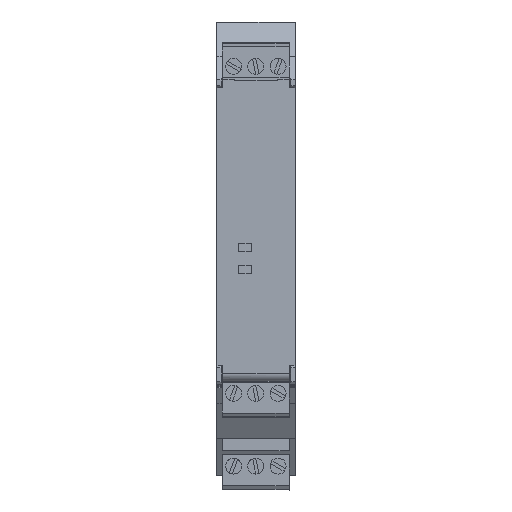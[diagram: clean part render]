
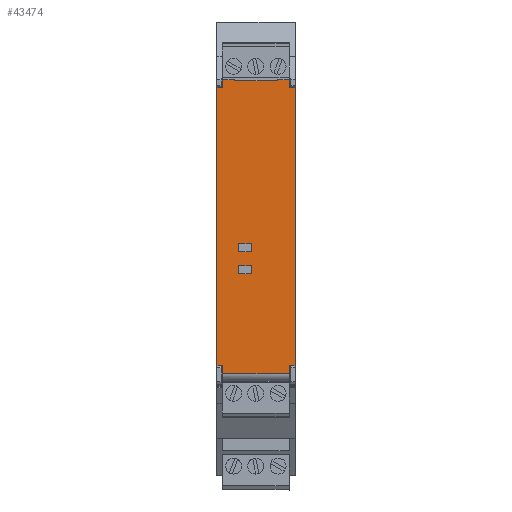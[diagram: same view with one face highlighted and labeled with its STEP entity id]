
A CAD part, top view. The second image highlights one B-rep face of the part: STEP entity #43474.
In plain terms, the highlighted planar face has unit normal (0, 0, 1).
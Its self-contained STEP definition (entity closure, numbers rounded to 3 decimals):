
#41841=CARTESIAN_POINT('',(16.325,-30.531,109.7));
#41842=VERTEX_POINT('',#41841);
#41849=CARTESIAN_POINT('',(16.325,-32.338,109.7));
#41850=VERTEX_POINT('',#41849);
#41851=CARTESIAN_POINT('',(16.325,-32.338,109.7));
#41852=DIRECTION('',(0.0,1.0,0.0));
#41853=VECTOR('',#41852,1.807);
#41854=LINE('',#41851,#41853);
#41855=EDGE_CURVE('',#41850,#41842,#41854,.T.);
#41881=CARTESIAN_POINT('',(16.335,33.579,109.7));
#41882=VERTEX_POINT('',#41881);
#41883=CARTESIAN_POINT('',(16.335,31.93,109.7));
#41884=VERTEX_POINT('',#41883);
#41885=CARTESIAN_POINT('',(16.335,33.579,109.7));
#41886=DIRECTION('',(0.0,-1.0,0.0));
#41887=VECTOR('',#41886,1.65);
#41888=LINE('',#41885,#41887);
#41889=EDGE_CURVE('',#41882,#41884,#41888,.T.);
#42458=CARTESIAN_POINT('',(1.375,31.93,109.7));
#42459=VERTEX_POINT('',#42458);
#42466=CARTESIAN_POINT('',(1.375,33.579,109.7));
#42467=VERTEX_POINT('',#42466);
#42468=CARTESIAN_POINT('',(1.375,33.579,109.7));
#42469=DIRECTION('',(0.0,-1.0,0.0));
#42470=VECTOR('',#42469,1.65);
#42471=LINE('',#42468,#42470);
#42472=EDGE_CURVE('',#42467,#42459,#42471,.T.);
#42614=CARTESIAN_POINT('',(13.685,33.579,109.7));
#42615=VERTEX_POINT('',#42614);
#42624=CARTESIAN_POINT('',(13.685,33.779,109.7));
#42625=VERTEX_POINT('',#42624);
#42626=CARTESIAN_POINT('',(13.685,33.579,109.7));
#42627=DIRECTION('',(0.0,1.0,0.0));
#42628=VECTOR('',#42627,0.2);
#42629=LINE('',#42626,#42628);
#42630=EDGE_CURVE('',#42615,#42625,#42629,.T.);
#42680=CARTESIAN_POINT('',(16.135,33.779,109.7));
#42681=VERTEX_POINT('',#42680);
#42688=CARTESIAN_POINT('',(16.135,33.579,109.7));
#42689=DIRECTION('',(0.0,0.0,-1.0));
#42690=DIRECTION('',(1.0,0.0,0.0));
#42691=AXIS2_PLACEMENT_3D('',#42688,#42689,#42690);
#42692=CIRCLE('',#42691,0.2);
#42693=EDGE_CURVE('',#42681,#41882,#42692,.T.);
#42706=CARTESIAN_POINT('',(4.025,33.579,109.7));
#42707=VERTEX_POINT('',#42706);
#42722=CARTESIAN_POINT('',(4.025,33.779,109.7));
#42723=VERTEX_POINT('',#42722);
#42730=CARTESIAN_POINT('',(4.025,33.779,109.7));
#42731=DIRECTION('',(0.0,-1.0,0.0));
#42732=VECTOR('',#42731,0.2);
#42733=LINE('',#42730,#42732);
#42734=EDGE_CURVE('',#42723,#42707,#42733,.T.);
#42744=CARTESIAN_POINT('',(1.575,33.779,109.7));
#42745=VERTEX_POINT('',#42744);
#42746=CARTESIAN_POINT('',(1.575,33.579,109.7));
#42747=DIRECTION('',(0.0,0.0,-1.0));
#42748=DIRECTION('',(1.0,0.0,0.0));
#42749=AXIS2_PLACEMENT_3D('',#42746,#42747,#42748);
#42750=CIRCLE('',#42749,0.2);
#42751=EDGE_CURVE('',#42467,#42745,#42750,.T.);
#43027=CARTESIAN_POINT('',(0.078,-30.531,109.7));
#43028=VERTEX_POINT('',#43027);
#43035=CARTESIAN_POINT('',(1.385,-30.531,109.7));
#43036=VERTEX_POINT('',#43035);
#43043=CARTESIAN_POINT('',(0.078,-30.531,109.7));
#43044=DIRECTION('',(1.0,0.0,0.0));
#43045=VECTOR('',#43044,1.307);
#43046=LINE('',#43043,#43045);
#43047=EDGE_CURVE('',#43028,#43036,#43046,.T.);
#43071=CARTESIAN_POINT('',(1.385,-32.338,109.7));
#43072=VERTEX_POINT('',#43071);
#43080=CARTESIAN_POINT('',(1.385,-30.531,109.7));
#43081=DIRECTION('',(0.0,-1.0,0.0));
#43082=VECTOR('',#43081,1.807);
#43083=LINE('',#43080,#43082);
#43084=EDGE_CURVE('',#43036,#43072,#43083,.T.);
#43131=CARTESIAN_POINT('',(1.385,-32.338,109.7));
#43132=DIRECTION('',(1.0,0.0,0.0));
#43133=VECTOR('',#43132,14.94);
#43134=LINE('',#43131,#43133);
#43135=EDGE_CURVE('',#43072,#41850,#43134,.T.);
#43155=CARTESIAN_POINT('',(17.632,-30.531,109.7));
#43156=VERTEX_POINT('',#43155);
#43163=CARTESIAN_POINT('',(16.325,-30.531,109.7));
#43164=DIRECTION('',(1.0,0.0,0.0));
#43165=VECTOR('',#43164,1.307);
#43166=LINE('',#43163,#43165);
#43167=EDGE_CURVE('',#41842,#43156,#43166,.T.);
#43177=CARTESIAN_POINT('',(16.135,33.779,109.7));
#43178=DIRECTION('',(-1.0,0.0,0.0));
#43179=VECTOR('',#43178,2.45);
#43180=LINE('',#43177,#43179);
#43181=EDGE_CURVE('',#42681,#42625,#43180,.T.);
#43200=CARTESIAN_POINT('',(4.025,33.779,109.7));
#43201=DIRECTION('',(-1.0,0.0,0.0));
#43202=VECTOR('',#43201,2.45);
#43203=LINE('',#43200,#43202);
#43204=EDGE_CURVE('',#42723,#42745,#43203,.T.);
#43221=CARTESIAN_POINT('',(7.775,-9.9,109.7));
#43222=VERTEX_POINT('',#43221);
#43230=CARTESIAN_POINT('',(4.975,-9.9,109.7));
#43231=VERTEX_POINT('',#43230);
#43238=CARTESIAN_POINT('',(7.775,-9.9,109.7));
#43239=DIRECTION('',(-1.0,0.0,0.0));
#43240=VECTOR('',#43239,2.8);
#43241=LINE('',#43238,#43240);
#43242=EDGE_CURVE('',#43222,#43231,#43241,.T.);
#43254=CARTESIAN_POINT('',(4.975,-8.1,109.7));
#43255=VERTEX_POINT('',#43254);
#43262=CARTESIAN_POINT('',(4.975,-9.9,109.7));
#43263=DIRECTION('',(0.0,1.0,0.0));
#43264=VECTOR('',#43263,1.8);
#43265=LINE('',#43262,#43264);
#43266=EDGE_CURVE('',#43231,#43255,#43265,.T.);
#43278=CARTESIAN_POINT('',(7.775,-8.1,109.7));
#43279=VERTEX_POINT('',#43278);
#43286=CARTESIAN_POINT('',(4.975,-8.1,109.7));
#43287=DIRECTION('',(1.0,0.0,0.0));
#43288=VECTOR('',#43287,2.8);
#43289=LINE('',#43286,#43288);
#43290=EDGE_CURVE('',#43255,#43279,#43289,.T.);
#43303=CARTESIAN_POINT('',(7.775,-8.1,109.7));
#43304=DIRECTION('',(0.0,-1.0,0.0));
#43305=VECTOR('',#43304,1.8);
#43306=LINE('',#43303,#43305);
#43307=EDGE_CURVE('',#43279,#43222,#43306,.T.);
#43317=CARTESIAN_POINT('',(4.975,-3.1,109.7));
#43318=VERTEX_POINT('',#43317);
#43326=CARTESIAN_POINT('',(7.775,-3.1,109.7));
#43327=VERTEX_POINT('',#43326);
#43334=CARTESIAN_POINT('',(4.975,-3.1,109.7));
#43335=DIRECTION('',(1.0,0.0,0.0));
#43336=VECTOR('',#43335,2.8);
#43337=LINE('',#43334,#43336);
#43338=EDGE_CURVE('',#43318,#43327,#43337,.T.);
#43350=CARTESIAN_POINT('',(7.775,-4.9,109.7));
#43351=VERTEX_POINT('',#43350);
#43358=CARTESIAN_POINT('',(7.775,-3.1,109.7));
#43359=DIRECTION('',(0.0,-1.0,0.0));
#43360=VECTOR('',#43359,1.8);
#43361=LINE('',#43358,#43360);
#43362=EDGE_CURVE('',#43327,#43351,#43361,.T.);
#43374=CARTESIAN_POINT('',(4.975,-4.9,109.7));
#43375=VERTEX_POINT('',#43374);
#43382=CARTESIAN_POINT('',(7.775,-4.9,109.7));
#43383=DIRECTION('',(-1.0,0.0,0.0));
#43384=VECTOR('',#43383,2.8);
#43385=LINE('',#43382,#43384);
#43386=EDGE_CURVE('',#43351,#43375,#43385,.T.);
#43399=CARTESIAN_POINT('',(4.975,-4.9,109.7));
#43400=DIRECTION('',(0.0,1.0,0.0));
#43401=VECTOR('',#43400,1.8);
#43402=LINE('',#43399,#43401);
#43403=EDGE_CURVE('',#43375,#43318,#43402,.T.);
#43408=CARTESIAN_POINT('',(6.135,8.43,109.7));
#43409=DIRECTION('',(0.0,0.0,1.0));
#43410=DIRECTION('',(1.0,0.0,0.0));
#43411=AXIS2_PLACEMENT_3D('',#43408,#43409,#43410);
#43412=PLANE('',#43411);
#43413=ORIENTED_EDGE('',*,*,#42630,.F.);
#43414=CARTESIAN_POINT('',(13.685,33.579,109.7));
#43415=DIRECTION('',(-1.0,0.0,0.0));
#43416=VECTOR('',#43415,9.66);
#43417=LINE('',#43414,#43416);
#43418=EDGE_CURVE('',#42615,#42707,#43417,.T.);
#43419=ORIENTED_EDGE('',*,*,#43418,.T.);
#43420=ORIENTED_EDGE('',*,*,#42734,.F.);
#43421=ORIENTED_EDGE('',*,*,#43204,.T.);
#43422=ORIENTED_EDGE('',*,*,#42751,.F.);
#43423=ORIENTED_EDGE('',*,*,#42472,.T.);
#43424=CARTESIAN_POINT('',(0.078,31.93,109.7));
#43425=VERTEX_POINT('',#43424);
#43426=CARTESIAN_POINT('',(1.375,31.93,109.7));
#43427=DIRECTION('',(-1.0,0.0,0.0));
#43428=VECTOR('',#43427,1.297);
#43429=LINE('',#43426,#43428);
#43430=EDGE_CURVE('',#42459,#43425,#43429,.T.);
#43431=ORIENTED_EDGE('',*,*,#43430,.T.);
#43432=CARTESIAN_POINT('',(0.078,-30.531,109.7));
#43433=DIRECTION('',(0.0,1.0,0.0));
#43434=VECTOR('',#43433,62.46);
#43435=LINE('',#43432,#43434);
#43436=EDGE_CURVE('',#43028,#43425,#43435,.T.);
#43437=ORIENTED_EDGE('',*,*,#43436,.F.);
#43438=ORIENTED_EDGE('',*,*,#43047,.T.);
#43439=ORIENTED_EDGE('',*,*,#43084,.T.);
#43440=ORIENTED_EDGE('',*,*,#43135,.T.);
#43441=ORIENTED_EDGE('',*,*,#41855,.T.);
#43442=ORIENTED_EDGE('',*,*,#43167,.T.);
#43443=CARTESIAN_POINT('',(17.632,31.93,109.7));
#43444=VERTEX_POINT('',#43443);
#43445=CARTESIAN_POINT('',(17.632,-30.531,109.7));
#43446=DIRECTION('',(0.0,1.0,0.0));
#43447=VECTOR('',#43446,62.46);
#43448=LINE('',#43445,#43447);
#43449=EDGE_CURVE('',#43156,#43444,#43448,.T.);
#43450=ORIENTED_EDGE('',*,*,#43449,.T.);
#43451=CARTESIAN_POINT('',(17.632,31.93,109.7));
#43452=DIRECTION('',(-1.0,0.0,0.0));
#43453=VECTOR('',#43452,1.297);
#43454=LINE('',#43451,#43453);
#43455=EDGE_CURVE('',#43444,#41884,#43454,.T.);
#43456=ORIENTED_EDGE('',*,*,#43455,.T.);
#43457=ORIENTED_EDGE('',*,*,#41889,.F.);
#43458=ORIENTED_EDGE('',*,*,#42693,.F.);
#43459=ORIENTED_EDGE('',*,*,#43181,.T.);
#43460=EDGE_LOOP('',(#43413,#43419,#43420,#43421,#43422,#43423,#43431,#43437,#43438,#43439,#43440,#43441,#43442,#43450,#43456,#43457,#43458,#43459));
#43461=FACE_OUTER_BOUND('',#43460,.T.);
#43462=ORIENTED_EDGE('',*,*,#43290,.T.);
#43463=ORIENTED_EDGE('',*,*,#43307,.T.);
#43464=ORIENTED_EDGE('',*,*,#43242,.T.);
#43465=ORIENTED_EDGE('',*,*,#43266,.T.);
#43466=EDGE_LOOP('',(#43462,#43463,#43464,#43465));
#43467=FACE_BOUND('',#43466,.T.);
#43468=ORIENTED_EDGE('',*,*,#43386,.T.);
#43469=ORIENTED_EDGE('',*,*,#43403,.T.);
#43470=ORIENTED_EDGE('',*,*,#43338,.T.);
#43471=ORIENTED_EDGE('',*,*,#43362,.T.);
#43472=EDGE_LOOP('',(#43468,#43469,#43470,#43471));
#43473=FACE_BOUND('',#43472,.T.);
#43474=ADVANCED_FACE('',(#43461,#43467,#43473),#43412,.T.);
